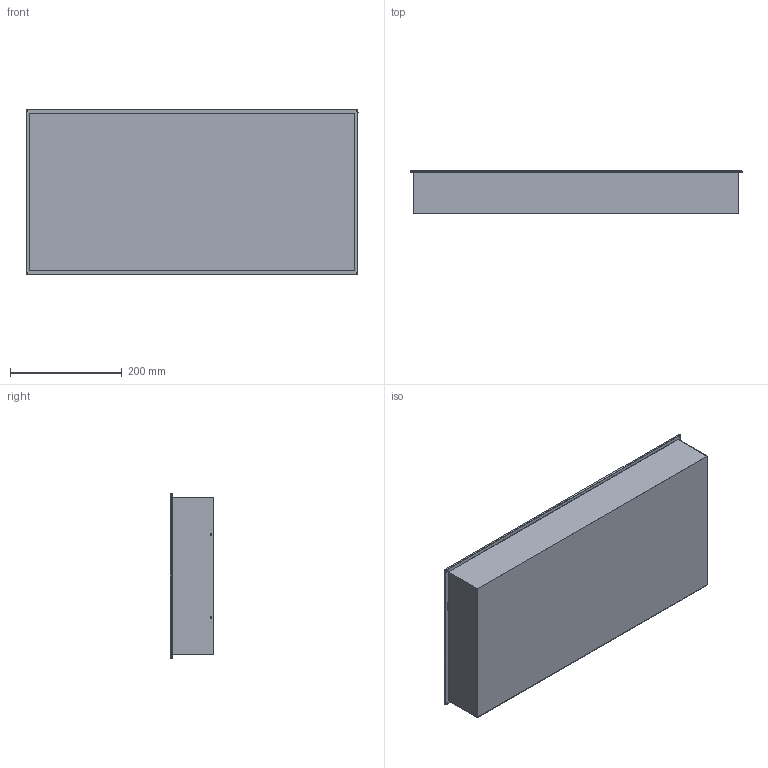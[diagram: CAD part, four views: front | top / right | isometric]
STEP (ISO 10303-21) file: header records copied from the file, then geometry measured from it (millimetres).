
FILE_DESCRIPTION(/* description */ (''),/* implementation_level */ '2;1');
FILE_NAME(/* name */ 'C:/Users/elena/Downloads/Coner QNQ 30x60.step',/* time_stamp */ '2020-06-17T13:05:14+02:00',/* author */ (''),/* organization */ (''),/* preprocessor_version */ 'ST-DEVELOPER v18.1',/* originating_system */ 'Autodesk Translation Framework v9.3.0.1241',/* authorisation */ '');
FILE_SCHEMA (('AUTOMOTIVE_DESIGN { 1 0 10303 214 3 1 1 }'));
Length unit declared in the file: millimetre
Products named in the file (1): (Unsaved)
Bounding box: 595 x 78 x 295 mm (x, y, z)
Volume: 829546.2 mm3; surface area: 964122.2 mm2
Topology: 2 solids, 2 shells, 45 faces, 117 edges, 78 vertices
Faces by surface type: plane 27, cylinder 14, bspline 4
Entity records: 2027 total; most frequent: CARTESIAN_POINT 867, ORIENTED_EDGE 234, DIRECTION 216, EDGE_CURVE 117, LINE 86, VECTOR 86, VERTEX_POINT 78, AXIS2_PLACEMENT_3D 65
